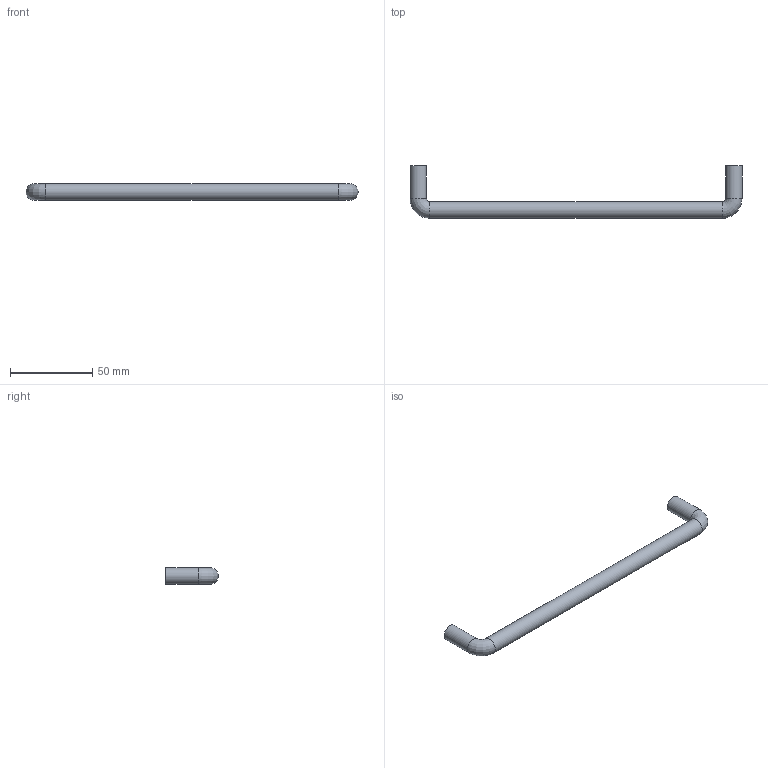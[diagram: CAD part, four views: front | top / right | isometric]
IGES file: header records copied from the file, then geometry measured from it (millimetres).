
Start section: Data from Parasolid IGES Translator 15.0.47, Copyright(c) 2006 Siemens P LM Software. All Rights Reserved.
Global section: file name: 9070420.igs; native system:  By UGS Corp.; preprocessor: XPlus GENERIC/IGES 3.0; author: Noname; organization: Noname; date: 20140122.155421; units: millimetre
Bounding box: 202 x 32 x 10 mm (x, y, z)
Surface area: 7948 mm2 (no closed solid volume)
Topology: 0 solids, 0 shells, 11 faces, 42 edges, 38 vertices
Faces by surface type: revolution 7, extrusion 4
